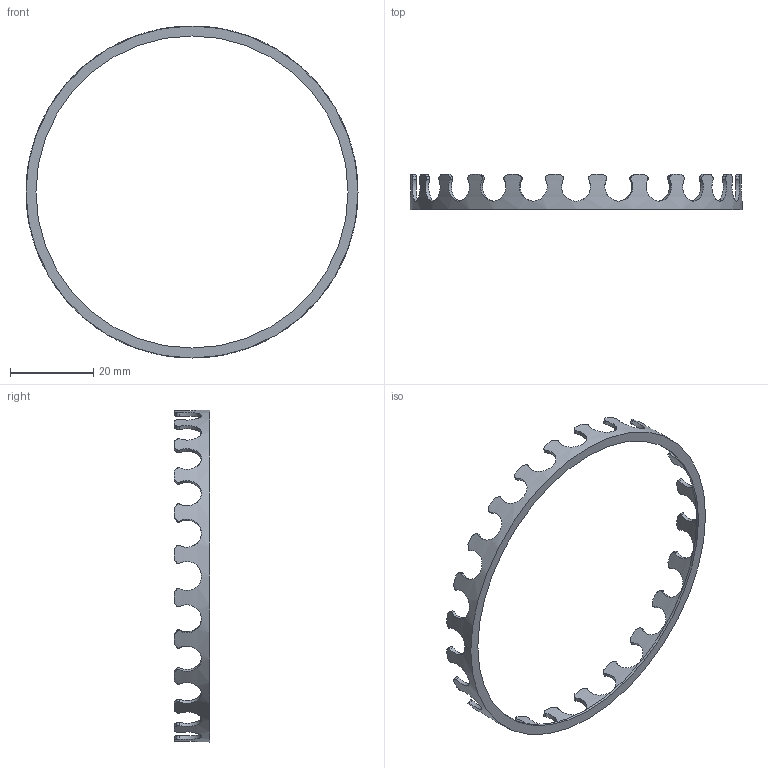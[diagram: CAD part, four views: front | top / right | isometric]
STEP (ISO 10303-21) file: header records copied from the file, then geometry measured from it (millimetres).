
FILE_DESCRIPTION(/* description */ (''),/* implementation_level */ '2;1');
FILE_NAME(/* name */ '\\192.168.3.8\kumagai\Develop\CAD\NakataOmni\DriveUnitR3\Ratainer_IG_SB.stp',/* time_stamp */ '2024-05-22T09:47:35+09:00',/* author */ ('kumagai'),/* organization */ (''),/* preprocessor_version */ 'ST-DEVELOPER v19',/* originating_system */ 'Autodesk Inventor 2023',/* authorisation */ '');
FILE_SCHEMA (('AUTOMOTIVE_DESIGN { 1 0 10303 214 3 1 1 }'));
Length unit declared in the file: millimetre
Products named in the file (1): Ratainer_IG_SB
Bounding box: 80 x 8.5 x 80 mm (x, y, z)
Volume: 1270.9 mm3; surface area: 3727.4 mm2
Topology: 1 solids, 1 shells, 149 faces, 441 edges, 294 vertices
Faces by surface type: cylinder 75, plane 74
Full cylindrical faces by diameter (mm): 75.2 x1, 78.2 x1, 80 x1
Entity records: 7132 total; most frequent: CARTESIAN_POINT 3239, ORIENTED_EDGE 882, DIRECTION 743, EDGE_CURVE 441, AXIS2_PLACEMENT_3D 298, VERTEX_POINT 294, EDGE_LOOP 151, FACE_OUTER_BOUND 149
